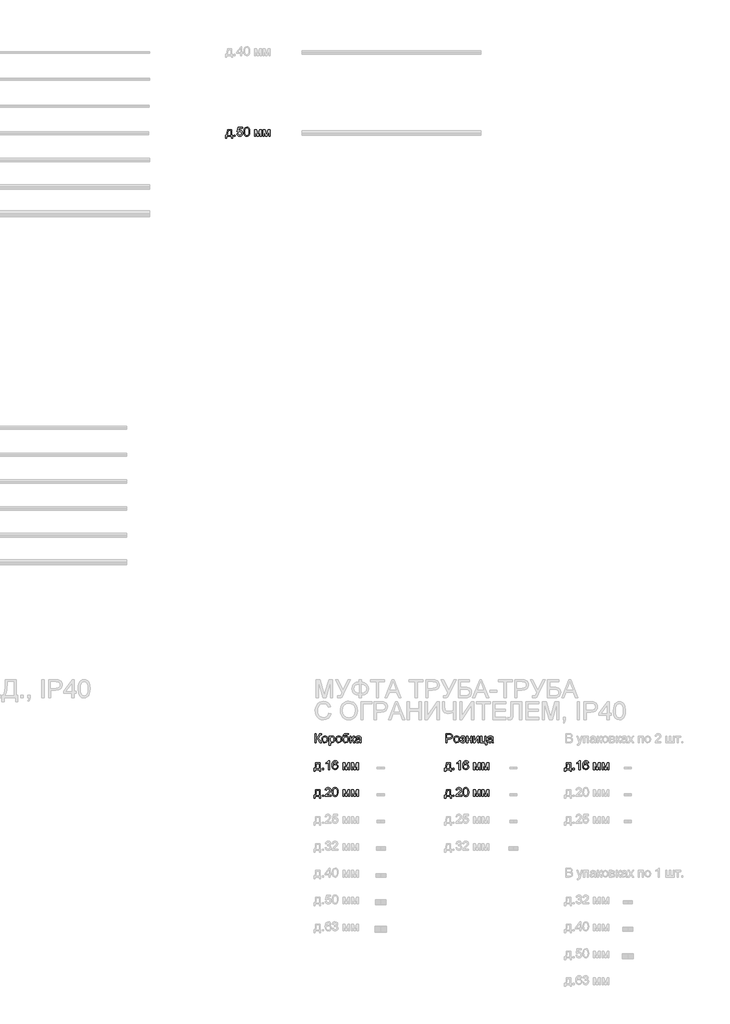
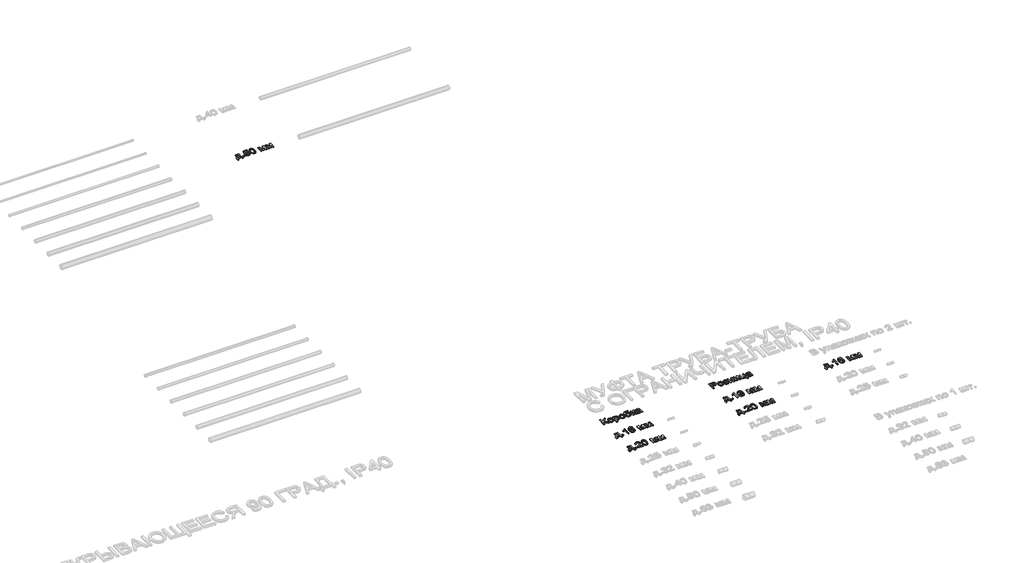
# One storey, part 85 of 98: 8 proxies.
"""IFC4 building model written with IfcOpenShell, lengths in millimetres."""

from ifc_helpers import new_model, si_unit, origin, origin_with_axes, place, context, project, spatial, polyline, outline, extrude, element, save

model = new_model("IFC4")

# Units and contexts
model_context = context("Model", 3, world=origin())
ifc_project = project(units=[si_unit("LENGTHUNIT", "METRE", prefix="MILLI")], contexts=[model_context])

# Site, building, storey
site = spatial("IfcSite", under=ifc_project)
building = spatial("IfcBuilding", under=site)
storey = spatial("IfcBuildingStorey", under=building, Name="Этаж 01", Elevation=0.0)

# Proxies
placement = place(None, origin())
element("IfcBuildingElementProxy", 1, Name="100", ObjectType="100", at=placement, inside=storey, context=model_context, shape_type="SweptSolid", body=[
    extrude(outline(polyline([(7370.1856084, -8496.7269726), (7417.2745038, -8496.7269726), (7417.2745038, -8557.9425366), (7426.6922829, -8557.9425366), (7426.6922829, -8590.9047634), (7414.1352441, -8590.9047634), (7414.1352441, -8570.4995754), (7362.3374592, -8570.4995754), (7362.3374592, -8590.9047634), (7349.7804204, -8590.9047634), (7349.7804204, -8557.9425366), (7357.6285697, -8557.9425366), (7367.3283916, -8533.9934187), (7370.1856084, -8496.7269726)]), holes=[polyline([(7381.1730173, -8509.2840114), (7378.2299614, -8537.8929679), (7371.7552383, -8557.9425366), (7404.717465, -8557.9425366), (7404.717465, -8509.2840114), (7381.1730173, -8509.2840114)])]), origin_with_axes(), (0.0, 0.0, 1.0), 10.0),
    extrude(outline(polyline([(7443.9582112, -8570.4995754), (7443.9582112, -8557.9425366), (7456.51525, -8557.9425366), (7456.51525, -8570.4995754), (7443.9582112, -8570.4995754)])), origin_with_axes(), (0.0, 0.0, 1.0), 10.0),
    extrude(outline(polyline([(7476.920438, -8543.815868), (7489.4774767, -8542.2462382), (7495.805047, -8555.1834216), (7508.9261715, -8559.5121665), (7517.9270177, -8558.006916), (7524.6715209, -8553.4911645), (7528.8837698, -8546.4860781), (7530.2878527, -8537.5128231), (7525.0271402, -8522.6013396), (7518.4205927, -8518.4994554), (7509.1223753, -8517.1321606), (7498.0981781, -8519.3149271), (7491.0471066, -8524.9803098), (7478.4900678, -8523.41068), (7489.4774767, -8471.6128951), (7538.136002, -8471.6128951), (7538.136002, -8484.1699338), (7499.6310198, -8484.1699338), (7494.2599427, -8511.8346599), (7503.230132, -8506.3900064), (7512.629517, -8504.5751218), (7524.3618869, -8506.8253334), (7534.1015627, -8513.575968), (7540.6590593, -8523.8644011), (7542.8448915, -8536.7280082), (7540.8767228, -8549.285047), (7534.9722168, -8560.0272013), (7523.6659768, -8569.0587042), (7508.8771206, -8572.0692052), (7496.5438767, -8570.1347591), (7486.7183618, -8564.3314206), (7479.9830556, -8555.3336401), (7476.920438, -8543.815868)])), origin_with_axes(), (0.0, 0.0, 1.0), 10.0),
    extrude(outline(polyline([(7553.8323004, -8521.0807607), (7557.5233831, -8492.1774986), (7568.4862666, -8475.5124442), (7586.7945272, -8470.0432652), (7601.4607561, -8473.2806268), (7611.5897737, -8482.6125667), (7617.4758856, -8497.4749993), (7619.7567539, -8521.0807607), (7616.1024595, -8549.8613955), (7605.1763642, -8566.563238), (7596.9450046, -8570.6927134), (7586.7945272, -8572.0692052), (7573.7469791, -8569.6779723), (7563.8386907, -8562.5042734), (7556.333898, -8545.5142565), (7553.8323004, -8521.0807607)]), holes=[polyline([(7566.3893392, -8521.0562352), (7567.8608672, -8540.8084327), (7572.2754511, -8552.2403657), (7578.8482761, -8557.6942163), (7586.7945272, -8559.5121665), (7594.7407783, -8557.6880849), (7601.3136033, -8552.2158402), (7605.7281872, -8540.7777759), (7607.1997152, -8521.0562352), (7605.7772381, -8501.7485618), (7601.509807, -8490.227724), (7594.9492447, -8484.507159), (7586.6473744, -8482.600304), (7578.7869624, -8484.2802984), (7572.4716548, -8489.3202818), (7567.9099181, -8501.5584895), (7566.3893392, -8521.0562352)])]), origin_with_axes(), (0.0, 0.0, 1.0), 10.0),
    extrude(outline(polyline([(7673.1241687, -8496.7269726), (7694.7311046, -8496.7269726), (7711.3838962, -8555.7842956), (7729.3365376, -8496.7269726), (7750.0360312, -8496.7269726), (7750.0360312, -8570.4995754), (7737.4789924, -8570.4995754), (7737.4789924, -8511.0988959), (7719.4282492, -8570.4995754), (7702.9471358, -8570.4995754), (7685.6812075, -8508.2539418), (7685.6812075, -8570.4995754), (7673.1241687, -8570.4995754), (7673.1241687, -8496.7269726)])), origin_with_axes(), (0.0, 0.0, 1.0), 10.0),
    extrude(outline(polyline([(7768.8715893, -8496.7269726), (7790.4785252, -8496.7269726), (7807.1313168, -8555.7842956), (7825.0839582, -8496.7269726), (7845.7834518, -8496.7269726), (7845.7834518, -8570.4995754), (7833.226413, -8570.4995754), (7833.226413, -8511.0988959), (7815.1756698, -8570.4995754), (7798.6945564, -8570.4995754), (7781.4286281, -8508.2539418), (7781.4286281, -8570.4995754), (7768.8715893, -8570.4995754), (7768.8715893, -8496.7269726)])), origin_with_axes(), (0.0, 0.0, 1.0), 10.0),
])
element("IfcBuildingElementProxy", 2, Name="100", ObjectType="100", at=placement, inside=storey, context=model_context, shape_type="SweptSolid", body=[
    extrude(outline(polyline([(8356.3281893, -15565.7395637), (8403.4170847, -15565.7395637), (8403.4170847, -15626.9551277), (8412.8348638, -15626.9551277), (8412.8348638, -15659.9173545), (8400.277825, -15659.9173545), (8400.277825, -15639.5121665), (8348.4800401, -15639.5121665), (8348.4800401, -15659.9173545), (8335.9230013, -15659.9173545), (8335.9230013, -15626.9551277), (8343.7711505, -15626.9551277), (8353.4709725, -15603.0060098), (8356.3281893, -15565.7395637)]), holes=[polyline([(8367.3155982, -15578.2966025), (8364.3725423, -15606.905559), (8357.8978192, -15626.9551277), (8390.8600459, -15626.9551277), (8390.8600459, -15578.2966025), (8367.3155982, -15578.2966025)])]), origin_with_axes(), (0.0, 0.0, 1.0), 10.0),
    extrude(outline(polyline([(8430.1007921, -15639.5121665), (8430.1007921, -15626.9551277), (8442.6578308, -15626.9551277), (8442.6578308, -15639.5121665), (8430.1007921, -15639.5121665)])), origin_with_axes(), (0.0, 0.0, 1.0), 10.0),
    extrude(outline(polyline([(8510.1519142, -15639.5121665), (8497.5948755, -15639.5121665), (8497.5948755, -15561.2268779), (8485.7000243, -15569.7004265), (8472.4807979, -15576.0402596), (8472.4807979, -15564.1699338), (8490.8871604, -15552.4222355), (8502.0585103, -15539.0558563), (8510.1519142, -15539.0558563), (8510.1519142, -15639.5121665)])), origin_with_axes(), (0.0, 0.0, 1.0), 10.0),
    extrude(outline(polyline([(8604.329705, -15565.7395637), (8591.7726662, -15567.3091935), (8587.0147258, -15556.8368194), (8574.4331615, -15551.6128951), (8563.1023961, -15554.6540529), (8554.5307456, -15566.0706575), (8550.9622902, -15588.4501455), (8562.0355383, -15578.4314925), (8575.7575367, -15575.1573428), (8587.3580823, -15577.3952916), (8597.0946924, -15584.109138), (8603.6981742, -15594.3669143), (8605.8993348, -15607.2366527), (8601.754531, -15624.5638947), (8590.3501892, -15636.8266279), (8573.8936013, -15641.0817963), (8559.647371, -15638.2613677), (8548.3012771, -15629.8000818), (8540.8792579, -15614.8640728), (8538.4052515, -15592.6194748), (8541.1521037, -15567.6096305), (8549.3926604, -15550.5092491), (8560.6437181, -15541.9192045), (8575.2179764, -15539.0558563), (8586.2360422, -15540.8278213), (8595.0590787, -15546.1437161), (8601.2394962, -15554.5866079), (8604.329705, -15565.7395637)]), holes=[polyline([(8550.9622902, -15607.040449), (8553.868558, -15617.9174933), (8561.5940799, -15625.8146935), (8572.9125826, -15628.5247575), (8581.1991245, -15627.1206746), (8587.7137015, -15622.9084257), (8591.9351474, -15616.2865498), (8593.3422961, -15607.6535857), (8591.9535415, -15599.3670437), (8587.7872779, -15593.0486705), (8581.1623363, -15589.0479538), (8572.3975478, -15587.7143815), (8557.2040214, -15593.0486705), (8552.522723, -15599.2137596), (8550.9622902, -15607.040449)])]), origin_with_axes(), (0.0, 0.0, 1.0), 10.0),
    extrude(outline(polyline([(8659.2667496, -15565.7395637), (8680.8736855, -15565.7395637), (8697.5264771, -15624.7968867), (8715.4791185, -15565.7395637), (8736.1786121, -15565.7395637), (8736.1786121, -15639.5121665), (8723.6215733, -15639.5121665), (8723.6215733, -15580.111487), (8705.5708301, -15639.5121665), (8689.0897167, -15639.5121665), (8671.8237884, -15577.2665329), (8671.8237884, -15639.5121665), (8659.2667496, -15639.5121665), (8659.2667496, -15565.7395637)])), origin_with_axes(), (0.0, 0.0, 1.0), 10.0),
    extrude(outline(polyline([(8755.0141702, -15565.7395637), (8776.6211061, -15565.7395637), (8793.2738977, -15624.7968867), (8811.2265391, -15565.7395637), (8831.9260327, -15565.7395637), (8831.9260327, -15639.5121665), (8819.3689939, -15639.5121665), (8819.3689939, -15580.111487), (8801.3182507, -15639.5121665), (8784.8371373, -15639.5121665), (8767.571209, -15577.2665329), (8767.571209, -15639.5121665), (8755.0141702, -15639.5121665), (8755.0141702, -15565.7395637)])), origin_with_axes(), (0.0, 0.0, 1.0), 10.0),
])
element("IfcBuildingElementProxy", 3, Name="100", ObjectType="100", at=placement, inside=storey, context=model_context, shape_type="SweptSolid", body=[
    extrude(outline(polyline([(8349.7389883, -15239.0558563), (8362.2960271, -15239.0558563), (8362.2960271, -15283.005492), (8376.3368566, -15279.6822913), (8386.1347804, -15262.8700841), (8393.0632246, -15248.8292546), (8400.9113739, -15241.8762849), (8412.1317747, -15239.0558563), (8420.3723314, -15239.2030091), (8420.3723314, -15251.7600479), (8417.6009537, -15251.6864715), (8414.829576, -15251.6128951), (8405.0193895, -15254.6295274), (8397.5636477, -15267.5544482), (8388.6731662, -15283.2997976), (8380.0034138, -15288.4991965), (8389.6971044, -15294.1768419), (8399.2559049, -15306.0103794), (8420.3723314, -15339.5121665), (8405.8042044, -15339.5121665), (8387.9496649, -15311.2097783), (8375.3803634, -15296.4331848), (8362.2960271, -15292.4232711), (8362.2960271, -15339.5121665), (8349.7389883, -15339.5121665), (8349.7389883, -15239.0558563)])), origin_with_axes(), (0.0, 0.0, 1.0), 10.0),
    extrude(outline(polyline([(8426.6508508, -15302.6258651), (8429.3670462, -15284.8387706), (8437.5156324, -15272.3369141), (8447.5833363, -15266.2116789), (8459.637603, -15264.1699338), (8472.8292382, -15266.656203), (8483.3659917, -15274.1150104), (8490.2729762, -15285.957745), (8492.5753043, -15301.5957955), (8488.5040769, -15323.9384953), (8476.6460139, -15336.5813732), (8459.637603, -15341.0817963), (8446.2865523, -15338.6047242), (8435.7620615, -15331.1735079), (8428.9286535, -15319.082453), (8426.6508508, -15302.6258651)]), holes=[polyline([(8439.2078896, -15302.6013396), (8440.6610235, -15313.9658276), (8445.0204251, -15322.0622972), (8451.5809873, -15326.9091424), (8459.637603, -15328.5247575), (8467.6574305, -15326.8999454), (8474.20573, -15322.025509), (8478.5651317, -15313.8217405), (8480.0182656, -15302.2089321), (8478.5559346, -15291.175538), (8474.1689418, -15283.189433), (8467.6114453, -15278.3425877), (8459.637603, -15276.7269726), (8451.5809873, -15278.3364563), (8445.0204251, -15283.1649075), (8440.6610235, -15291.242983), (8439.2078896, -15302.6013396)])]), origin_with_axes(), (0.0, 0.0, 1.0), 10.0),
    extrude(outline(polyline([(8506.701973, -15367.7655037), (8506.701973, -15265.7395637), (8519.2590117, -15265.7395637), (8519.2590117, -15278.0513478), (8527.9410268, -15267.6402873), (8539.6641997, -15264.1699338), (8555.5812274, -15269.0259762), (8565.9800251, -15282.7111864), (8569.4871668, -15302.0617793), (8565.526304, -15322.4056537), (8554.0238603, -15336.2625422), (8538.1436208, -15341.0817963), (8527.2175256, -15337.8566975), (8519.2590117, -15329.7019799), (8519.2590117, -15367.7655037), (8506.701973, -15367.7655037)]), holes=[polyline([(8519.2590117, -15303.2144763), (8520.6171094, -15314.4716653), (8524.6914025, -15322.34434), (8530.7032075, -15326.9796532), (8537.8738407, -15328.5247575), (8545.1609699, -15326.9244709), (8551.326059, -15322.1236108), (8555.5291108, -15313.9627619), (8556.930128, -15302.2825085), (8555.5628333, -15291.0866332), (8551.460949, -15283.1035939), (8545.4583411, -15278.3211279), (8538.3888755, -15276.7269726), (8531.2918186, -15278.4222955), (8525.0592845, -15283.5082641), (8520.7090799, -15291.8254628), (8519.2590117, -15303.2144763)])]), origin_with_axes(), (0.0, 0.0, 1.0), 10.0),
    extrude(outline(polyline([(8580.4745757, -15302.6258651), (8583.1907711, -15284.8387706), (8591.3393573, -15272.3369141), (8601.4070612, -15266.2116789), (8613.461328, -15264.1699338), (8626.6529632, -15266.656203), (8637.1897166, -15274.1150104), (8644.0967011, -15285.957745), (8646.3990293, -15301.5957955), (8642.3278018, -15323.9384953), (8630.4697389, -15336.5813732), (8613.461328, -15341.0817963), (8600.1102772, -15338.6047242), (8589.5857865, -15331.1735079), (8582.7523784, -15319.082453), (8580.4745757, -15302.6258651)]), holes=[polyline([(8593.0316145, -15302.6013396), (8594.4847484, -15313.9658276), (8598.84415, -15322.0622972), (8605.4047123, -15326.9091424), (8613.461328, -15328.5247575), (8621.4811554, -15326.8999454), (8628.029455, -15322.025509), (8632.3888566, -15313.8217405), (8633.8419905, -15302.2089321), (8632.3796596, -15291.175538), (8627.9926668, -15283.189433), (8621.4351702, -15278.3425877), (8613.461328, -15276.7269726), (8605.4047123, -15278.3364563), (8598.84415, -15283.1649075), (8594.4847484, -15291.242983), (8593.0316145, -15302.6013396)])]), origin_with_axes(), (0.0, 0.0, 1.0), 10.0),
    extrude(outline(polyline([(8712.3234828, -15237.4862265), (8723.3108917, -15237.4862265), (8720.0735302, -15247.2841503), (8713.6723834, -15250.8280802), (8698.294916, -15251.6128951), (8677.5831597, -15254.5069001), (8669.6369086, -15263.7775264), (8666.9513701, -15280.1850634), (8677.8284144, -15268.1675849), (8691.8447184, -15264.1699338), (8704.9106606, -15266.7113853), (8715.5117934, -15274.3357396), (8722.5383395, -15286.2949702), (8724.8805216, -15301.8410502), (8720.2329457, -15323.447986), (8709.2087486, -15336.4832714), (8691.8447184, -15341.0817963), (8680.5108873, -15339.6010713), (8672.0158789, -15335.1588962), (8661.16336, -15320.002158), (8657.3864382, -15287.8370089), (8659.7684741, -15263.7438039), (8666.9145819, -15249.0499838), (8679.0025711, -15241.5543882), (8696.2102514, -15239.0558563), (8710.1897672, -15238.7738134), (8712.3234828, -15237.4862265)]), holes=[polyline([(8712.3234828, -15301.4486427), (8710.9623194, -15291.5679454), (8706.8788293, -15283.6554169), (8700.318267, -15278.4590837), (8691.5258873, -15276.7269726), (8682.3594943, -15278.5571855), (8675.5598087, -15284.0478243), (8671.3475599, -15292.598015), (8669.9434769, -15303.6068837), (8671.4947127, -15314.2785273), (8676.1484199, -15322.1113481), (8683.0768642, -15326.9214052), (8691.4523109, -15328.5247575), (8699.8706773, -15326.6700191), (8706.5354727, -15321.105804), (8710.8764803, -15312.4820369), (8712.3234828, -15301.4486427)])]), origin_with_axes(), (0.0, 0.0, 1.0), 10.0),
    extrude(outline(polyline([(8740.57682, -15265.7395637), (8753.1338588, -15265.7395637), (8753.1338588, -15297.1321606), (8761.5460937, -15294.8758177), (8768.4377498, -15281.7301677), (8774.1644462, -15270.3871396), (8779.2166922, -15266.6960569), (8788.4014794, -15265.7395637), (8790.8049751, -15265.7395637), (8790.8049751, -15278.3701789), (8787.4204607, -15278.2966025), (8781.2890942, -15279.6209776), (8776.9726121, -15287.8860598), (8771.9081033, -15296.8255923), (8764.8079808, -15301.203388), (8772.7297064, -15306.0900872), (8780.5042792, -15316.3846517), (8793.9442348, -15339.5121665), (8779.6704134, -15339.5121665), (8766.5002379, -15316.875161), (8759.878362, -15307.2979664), (8753.1338588, -15304.9803098), (8753.1338588, -15339.5121665), (8740.57682, -15339.5121665), (8740.57682, -15265.7395637)])), origin_with_axes(), (0.0, 0.0, 1.0), 10.0),
    extrude(outline(polyline([(8848.8812794, -15330.0943874), (8836.7043854, -15338.6047242), (8823.2521671, -15341.0817963), (8812.7583332, -15339.5918742), (8805.0174828, -15335.122108), (8800.244214, -15328.3346852), (8798.6531243, -15319.8917934), (8801.05662, -15309.9589795), (8807.3719276, -15302.7484924), (8816.1643073, -15298.6282141), (8827.0290889, -15296.7397532), (8848.807703, -15292.4232711), (8848.8812794, -15289.6273679), (8845.4231886, -15280.3567416), (8831.5417747, -15276.7269726), (8818.8375831, -15279.1427311), (8812.7797929, -15287.7143815), (8800.2227542, -15286.1447517), (8805.655145, -15273.8820185), (8816.593503, -15266.6960569), (8833.1604555, -15264.1699338), (8848.3785073, -15266.4017513), (8856.9746833, -15272.0058203), (8860.8251815, -15280.5284199), (8861.4383182, -15291.5158288), (8861.4383182, -15307.1385509), (8862.0759803, -15328.9539532), (8864.5775779, -15339.5121665), (8852.0205391, -15339.5121665), (8848.8812794, -15330.0943874)]), holes=[polyline([(8848.8812794, -15304.9803098), (8828.6232442, -15308.8308081), (8817.8197763, -15310.8664218), (8812.9269457, -15314.1773597), (8811.2101631, -15319.0088766), (8814.9502967, -15325.8024308), (8825.9254429, -15328.5247575), (8838.6296345, -15325.5203879), (8846.8211402, -15318.2485871), (8848.807703, -15308.5365025), (8848.8812794, -15304.9803098)])]), origin_with_axes(), (0.0, 0.0, 1.0), 10.0),
])
element("IfcBuildingElementProxy", 4, Name="100", ObjectType="100", at=placement, inside=storey, context=model_context, shape_type="SweptSolid", body=[
    extrude(outline(polyline([(8356.3281893, -15865.7395637), (8403.4170847, -15865.7395637), (8403.4170847, -15926.9551277), (8412.8348638, -15926.9551277), (8412.8348638, -15959.9173545), (8400.277825, -15959.9173545), (8400.277825, -15939.5121665), (8348.4800401, -15939.5121665), (8348.4800401, -15959.9173545), (8335.9230013, -15959.9173545), (8335.9230013, -15926.9551277), (8343.7711505, -15926.9551277), (8353.4709725, -15903.0060098), (8356.3281893, -15865.7395637)]), holes=[polyline([(8367.3155982, -15878.2966025), (8364.3725423, -15906.905559), (8357.8978192, -15926.9551277), (8390.8600459, -15926.9551277), (8390.8600459, -15878.2966025), (8367.3155982, -15878.2966025)])]), origin_with_axes(), (0.0, 0.0, 1.0), 10.0),
    extrude(outline(polyline([(8430.1007921, -15939.5121665), (8430.1007921, -15926.9551277), (8442.6578308, -15926.9551277), (8442.6578308, -15939.5121665), (8430.1007921, -15939.5121665)])), origin_with_axes(), (0.0, 0.0, 1.0), 10.0),
    extrude(outline(polyline([(8527.4178425, -15926.9551277), (8527.4178425, -15939.5121665), (8461.493389, -15939.5121665), (8462.8422896, -15930.8546768), (8470.4697097, -15917.5250859), (8486.1905336, -15902.9692216), (8507.8710459, -15882.0489988), (8513.2911739, -15867.8242283), (8508.1776142, -15856.3095219), (8494.8234978, -15851.6128951), (8480.9052956, -15856.1991573), (8475.6200576, -15868.8788234), (8463.0630188, -15867.3091935), (8466.1072424, -15855.1629563), (8472.6892644, -15846.2908689), (8482.4657284, -15840.8646095), (8495.0932779, -15839.0558563), (8507.8127979, -15841.0669445), (8517.5708678, -15847.1002093), (8523.7788765, -15856.1133182), (8525.8482127, -15867.0639389), (8523.6163953, -15878.9710528), (8516.1974417, -15891.2828369), (8498.2080121, -15908.4874515), (8483.7625124, -15920.5662437), (8478.0971297, -15926.9551277), (8527.4178425, -15926.9551277)])), origin_with_axes(), (0.0, 0.0, 1.0), 10.0),
    extrude(outline(polyline([(8539.9748813, -15890.0933518), (8543.665964, -15861.1900897), (8554.6288474, -15844.5250353), (8572.9371081, -15839.0558563), (8587.6033369, -15842.2932179), (8597.7323545, -15851.6251578), (8603.6184665, -15866.4875904), (8605.8993348, -15890.0933518), (8602.2450404, -15918.8739865), (8591.3189451, -15935.5758291), (8583.0875855, -15939.7053045), (8572.9371081, -15941.0817963), (8559.88956, -15938.6905633), (8549.9812716, -15931.5168644), (8542.4764789, -15914.5268476), (8539.9748813, -15890.0933518)]), holes=[polyline([(8552.5319201, -15890.0688263), (8554.0034481, -15909.8210238), (8558.418032, -15921.2529568), (8564.990857, -15926.7068073), (8572.9371081, -15928.5247575), (8580.8833592, -15926.700676), (8587.4561841, -15921.2284313), (8591.8707681, -15909.7903669), (8593.3422961, -15890.0688263), (8591.919819, -15870.7611529), (8587.6523879, -15859.2403151), (8581.0918256, -15853.5197501), (8572.7899553, -15851.6128951), (8564.9295433, -15853.2928895), (8558.6142357, -15858.3328729), (8554.052499, -15870.5710806), (8552.5319201, -15890.0688263)])]), origin_with_axes(), (0.0, 0.0, 1.0), 10.0),
    extrude(outline(polyline([(8659.2667496, -15865.7395637), (8680.8736855, -15865.7395637), (8697.5264771, -15924.7968867), (8715.4791185, -15865.7395637), (8736.1786121, -15865.7395637), (8736.1786121, -15939.5121665), (8723.6215733, -15939.5121665), (8723.6215733, -15880.111487), (8705.5708301, -15939.5121665), (8689.0897167, -15939.5121665), (8671.8237884, -15877.2665329), (8671.8237884, -15939.5121665), (8659.2667496, -15939.5121665), (8659.2667496, -15865.7395637)])), origin_with_axes(), (0.0, 0.0, 1.0), 10.0),
    extrude(outline(polyline([(8755.0141702, -15865.7395637), (8776.6211061, -15865.7395637), (8793.2738977, -15924.7968867), (8811.2265391, -15865.7395637), (8831.9260327, -15865.7395637), (8831.9260327, -15939.5121665), (8819.3689939, -15939.5121665), (8819.3689939, -15880.111487), (8801.3182507, -15939.5121665), (8784.8371373, -15939.5121665), (8767.571209, -15877.2665329), (8767.571209, -15939.5121665), (8755.0141702, -15939.5121665), (8755.0141702, -15865.7395637)])), origin_with_axes(), (0.0, 0.0, 1.0), 10.0),
])
element("IfcBuildingElementProxy", 5, Name="100", ObjectType="100", at=placement, inside=storey, context=model_context, shape_type="SweptSolid", body=[
    extrude(outline(polyline([(9809.7389883, -15339.5121665), (9809.7389883, -15239.0558563), (9846.9686463, -15239.0558563), (9861.9782317, -15240.0123495), (9874.1796512, -15244.7089763), (9882.0891141, -15254.421061), (9885.081221, -15268.1185339), (9883.0609357, -15279.9582028), (9877.0000798, -15289.8235716), (9865.6662487, -15296.4822358), (9847.8270376, -15298.7017905), (9822.2960271, -15298.7017905), (9822.2960271, -15339.5121665), (9809.7389883, -15339.5121665)]), holes=[polyline([(9822.2960271, -15286.1447517), (9848.5628016, -15286.1447517), (9867.0550032, -15281.533964), (9871.1568874, -15275.9850773), (9872.5241822, -15268.5599923), (9869.2990834, -15258.1611946), (9860.8255347, -15252.4712864), (9848.268496, -15251.6128951), (9822.2960271, -15251.6128951), (9822.2960271, -15286.1447517)])]), origin_with_axes(), (0.0, 0.0, 1.0), 10.0),
    extrude(outline(polyline([(9897.6382597, -15302.6258651), (9900.3544551, -15284.8387706), (9908.5030413, -15272.3369141), (9918.5707453, -15266.2116789), (9930.625012, -15264.1699338), (9943.8166472, -15266.656203), (9954.3534006, -15274.1150104), (9961.2603851, -15285.957745), (9963.5627133, -15301.5957955), (9959.4914858, -15323.9384953), (9947.6334229, -15336.5813732), (9930.625012, -15341.0817963), (9917.2739612, -15338.6047242), (9906.7494705, -15331.1735079), (9899.9160624, -15319.082453), (9897.6382597, -15302.6258651)]), holes=[polyline([(9910.1952985, -15302.6013396), (9911.6484324, -15313.9658276), (9916.007834, -15322.0622972), (9922.5683963, -15326.9091424), (9930.625012, -15328.5247575), (9938.6448395, -15326.8999454), (9945.193139, -15322.025509), (9949.5525406, -15313.8217405), (9951.0056745, -15302.2089321), (9949.5433436, -15291.175538), (9945.1563508, -15283.189433), (9938.5988542, -15278.3425877), (9930.625012, -15276.7269726), (9922.5683963, -15278.3364563), (9916.007834, -15283.1649075), (9911.6484324, -15291.242983), (9910.1952985, -15302.6013396)])]), origin_with_axes(), (0.0, 0.0, 1.0), 10.0),
    extrude(outline(polyline([(9994.9553102, -15306.5499397), (9994.9553102, -15293.9929009), (10004.8635986, -15293.5023916), (10009.8667937, -15290.8904294), (10012.2212385, -15285.4335132), (10009.0697161, -15279.0936801), (10000.939524, -15276.7269726), (9992.5395517, -15279.0814174), (9987.107161, -15286.1447517), (9972.9804923, -15284.5751218), (9982.4227969, -15269.2712308), (9999.6641997, -15264.1699338), (10010.1610993, -15265.7242353), (10018.1073504, -15270.3871396), (10023.1105455, -15277.2082849), (10024.7782773, -15285.2373094), (10022.4054384, -15293.0364077), (10015.2869218, -15299.0696725), (10023.5887921, -15306.8932962), (10026.3479071, -15318.1504853), (10024.5974019, -15327.3935204), (10019.3458865, -15334.7174378), (10010.9489799, -15339.4907067), (9999.7623016, -15341.0817963), (9988.8208779, -15339.6102683), (9980.4484968, -15335.1956844), (9974.6451584, -15327.8380445), (9971.4108625, -15317.5373486), (9985.5375311, -15315.9677188), (9991.2029138, -15325.238345), (10000.9640494, -15328.5247575), (10010.1365738, -15325.3732351), (10013.7908683, -15317.3166194), (10011.5222627, -15310.719269), (10006.6907458, -15307.1876018), (9997.4078568, -15306.4763633), (9994.9553102, -15306.5499397)])), origin_with_axes(), (0.0, 0.0, 1.0), 10.0),
    extrude(outline(polyline([(10042.0442056, -15265.7395637), (10054.6012443, -15265.7395637), (10054.6012443, -15293.9929009), (10087.5634711, -15293.9929009), (10087.5634711, -15265.7395637), (10100.1205099, -15265.7395637), (10100.1205099, -15339.5121665), (10087.5634711, -15339.5121665), (10087.5634711, -15306.5499397), (10054.6012443, -15306.5499397), (10054.6012443, -15339.5121665), (10042.0442056, -15339.5121665), (10042.0442056, -15265.7395637)])), origin_with_axes(), (0.0, 0.0, 1.0), 10.0),
    extrude(outline(polyline([(10118.956068, -15265.7395637), (10131.5131068, -15265.7395637), (10131.5131068, -15322.0009835), (10162.3661435, -15265.7395637), (10178.6020022, -15265.7395637), (10178.6020022, -15339.5121665), (10166.0449634, -15339.5121665), (10166.0449634, -15283.5941032), (10135.3881305, -15339.5121665), (10118.956068, -15339.5121665), (10118.956068, -15265.7395637)])), origin_with_axes(), (0.0, 0.0, 1.0), 10.0),
    extrude(outline(polyline([(10197.4375603, -15265.7395637), (10209.9945991, -15265.7395637), (10209.9945991, -15326.9551277), (10246.0960856, -15326.9551277), (10246.0960856, -15265.7395637), (10258.6531243, -15265.7395637), (10258.6531243, -15326.9551277), (10266.5012736, -15326.9551277), (10266.5012736, -15359.9173545), (10253.9442348, -15359.9173545), (10253.9442348, -15339.5121665), (10197.4375603, -15339.5121665), (10197.4375603, -15265.7395637)])), origin_with_axes(), (0.0, 0.0, 1.0), 10.0),
    extrude(outline(polyline([(10324.5775779, -15330.0943874), (10312.4006838, -15338.6047242), (10298.9484655, -15341.0817963), (10288.4546316, -15339.5918742), (10280.7137813, -15335.122108), (10275.9405124, -15328.3346852), (10274.3494228, -15319.8917934), (10276.7529185, -15309.9589795), (10283.0682261, -15302.7484924), (10291.8606058, -15298.6282141), (10302.7253873, -15296.7397532), (10324.5040015, -15292.4232711), (10324.5775779, -15289.6273679), (10321.1194871, -15280.3567416), (10307.2380732, -15276.7269726), (10294.5338816, -15279.1427311), (10288.4760914, -15287.7143815), (10275.9190526, -15286.1447517), (10281.3514434, -15273.8820185), (10292.2898014, -15266.6960569), (10308.8567539, -15264.1699338), (10324.0748058, -15266.4017513), (10332.6709818, -15272.0058203), (10336.52148, -15280.5284199), (10337.1346166, -15291.5158288), (10337.1346166, -15307.1385509), (10337.7722788, -15328.9539532), (10340.2738763, -15339.5121665), (10327.7168376, -15339.5121665), (10324.5775779, -15330.0943874)]), holes=[polyline([(10324.5775779, -15304.9803098), (10304.3195427, -15308.8308081), (10293.5160747, -15310.8664218), (10288.6232442, -15314.1773597), (10286.9064616, -15319.0088766), (10290.6465952, -15325.8024308), (10301.6217414, -15328.5247575), (10314.3259329, -15325.5203879), (10322.5174387, -15318.2485871), (10324.5040015, -15308.5365025), (10324.5775779, -15304.9803098)])]), origin_with_axes(), (0.0, 0.0, 1.0), 10.0),
])
element("IfcBuildingElementProxy", 6, Name="100", ObjectType="100", at=placement, inside=storey, context=model_context, shape_type="SweptSolid", body=[
    extrude(outline(polyline([(9816.3281893, -15565.7395637), (9863.4170847, -15565.7395637), (9863.4170847, -15626.9551277), (9872.8348638, -15626.9551277), (9872.8348638, -15659.9173545), (9860.277825, -15659.9173545), (9860.277825, -15639.5121665), (9808.4800401, -15639.5121665), (9808.4800401, -15659.9173545), (9795.9230013, -15659.9173545), (9795.9230013, -15626.9551277), (9803.7711505, -15626.9551277), (9813.4709725, -15603.0060098), (9816.3281893, -15565.7395637)]), holes=[polyline([(9827.3155982, -15578.2966025), (9824.3725423, -15606.905559), (9817.8978192, -15626.9551277), (9850.8600459, -15626.9551277), (9850.8600459, -15578.2966025), (9827.3155982, -15578.2966025)])]), origin_with_axes(), (0.0, 0.0, 1.0), 10.0),
    extrude(outline(polyline([(9890.1007921, -15639.5121665), (9890.1007921, -15626.9551277), (9902.6578308, -15626.9551277), (9902.6578308, -15639.5121665), (9890.1007921, -15639.5121665)])), origin_with_axes(), (0.0, 0.0, 1.0), 10.0),
    extrude(outline(polyline([(9970.1519142, -15639.5121665), (9957.5948755, -15639.5121665), (9957.5948755, -15561.2268779), (9945.7000243, -15569.7004265), (9932.4807979, -15576.0402596), (9932.4807979, -15564.1699338), (9950.8871604, -15552.4222355), (9962.0585103, -15539.0558563), (9970.1519142, -15539.0558563), (9970.1519142, -15639.5121665)])), origin_with_axes(), (0.0, 0.0, 1.0), 10.0),
    extrude(outline(polyline([(10064.329705, -15565.7395637), (10051.7726662, -15567.3091935), (10047.0147258, -15556.8368194), (10034.4331615, -15551.6128951), (10023.1023961, -15554.6540529), (10014.5307456, -15566.0706575), (10010.9622902, -15588.4501455), (10022.0355383, -15578.4314925), (10035.7575367, -15575.1573428), (10047.3580823, -15577.3952916), (10057.0946924, -15584.109138), (10063.6981742, -15594.3669143), (10065.8993348, -15607.2366527), (10061.754531, -15624.5638947), (10050.3501892, -15636.8266279), (10033.8936013, -15641.0817963), (10019.647371, -15638.2613677), (10008.3012771, -15629.8000818), (10000.8792579, -15614.8640728), (9998.4052515, -15592.6194748), (10001.1521037, -15567.6096305), (10009.3926604, -15550.5092491), (10020.6437181, -15541.9192045), (10035.2179764, -15539.0558563), (10046.2360422, -15540.8278213), (10055.0590787, -15546.1437161), (10061.2394962, -15554.5866079), (10064.329705, -15565.7395637)]), holes=[polyline([(10010.9622902, -15607.040449), (10013.868558, -15617.9174933), (10021.5940799, -15625.8146935), (10032.9125826, -15628.5247575), (10041.1991245, -15627.1206746), (10047.7137015, -15622.9084257), (10051.9351474, -15616.2865498), (10053.3422961, -15607.6535857), (10051.9535415, -15599.3670437), (10047.7872779, -15593.0486705), (10041.1623363, -15589.0479538), (10032.3975478, -15587.7143815), (10017.2040214, -15593.0486705), (10012.522723, -15599.2137596), (10010.9622902, -15607.040449)])]), origin_with_axes(), (0.0, 0.0, 1.0), 10.0),
    extrude(outline(polyline([(10119.2667496, -15565.7395637), (10140.8736855, -15565.7395637), (10157.5264771, -15624.7968867), (10175.4791185, -15565.7395637), (10196.1786121, -15565.7395637), (10196.1786121, -15639.5121665), (10183.6215733, -15639.5121665), (10183.6215733, -15580.111487), (10165.5708301, -15639.5121665), (10149.0897167, -15639.5121665), (10131.8237884, -15577.2665329), (10131.8237884, -15639.5121665), (10119.2667496, -15639.5121665), (10119.2667496, -15565.7395637)])), origin_with_axes(), (0.0, 0.0, 1.0), 10.0),
    extrude(outline(polyline([(10215.0141702, -15565.7395637), (10236.6211061, -15565.7395637), (10253.2738977, -15624.7968867), (10271.2265391, -15565.7395637), (10291.9260327, -15565.7395637), (10291.9260327, -15639.5121665), (10279.3689939, -15639.5121665), (10279.3689939, -15580.111487), (10261.3182507, -15639.5121665), (10244.8371373, -15639.5121665), (10227.571209, -15577.2665329), (10227.571209, -15639.5121665), (10215.0141702, -15639.5121665), (10215.0141702, -15565.7395637)])), origin_with_axes(), (0.0, 0.0, 1.0), 10.0),
])
element("IfcBuildingElementProxy", 7, Name="100", ObjectType="100", at=placement, inside=storey, context=model_context, shape_type="SweptSolid", body=[
    extrude(outline(polyline([(9816.3281893, -15865.7395637), (9863.4170847, -15865.7395637), (9863.4170847, -15926.9551277), (9872.8348638, -15926.9551277), (9872.8348638, -15959.9173545), (9860.277825, -15959.9173545), (9860.277825, -15939.5121665), (9808.4800401, -15939.5121665), (9808.4800401, -15959.9173545), (9795.9230013, -15959.9173545), (9795.9230013, -15926.9551277), (9803.7711505, -15926.9551277), (9813.4709725, -15903.0060098), (9816.3281893, -15865.7395637)]), holes=[polyline([(9827.3155982, -15878.2966025), (9824.3725423, -15906.905559), (9817.8978192, -15926.9551277), (9850.8600459, -15926.9551277), (9850.8600459, -15878.2966025), (9827.3155982, -15878.2966025)])]), origin_with_axes(), (0.0, 0.0, 1.0), 10.0),
    extrude(outline(polyline([(9890.1007921, -15939.5121665), (9890.1007921, -15926.9551277), (9902.6578308, -15926.9551277), (9902.6578308, -15939.5121665), (9890.1007921, -15939.5121665)])), origin_with_axes(), (0.0, 0.0, 1.0), 10.0),
    extrude(outline(polyline([(9987.4178425, -15926.9551277), (9987.4178425, -15939.5121665), (9921.493389, -15939.5121665), (9922.8422896, -15930.8546768), (9930.4697097, -15917.5250859), (9946.1905336, -15902.9692216), (9967.8710459, -15882.0489988), (9973.2911739, -15867.8242283), (9968.1776142, -15856.3095219), (9954.8234978, -15851.6128951), (9940.9052956, -15856.1991573), (9935.6200576, -15868.8788234), (9923.0630188, -15867.3091935), (9926.1072424, -15855.1629563), (9932.6892644, -15846.2908689), (9942.4657284, -15840.8646095), (9955.0932779, -15839.0558563), (9967.8127979, -15841.0669445), (9977.5708678, -15847.1002093), (9983.7788765, -15856.1133182), (9985.8482127, -15867.0639389), (9983.6163953, -15878.9710528), (9976.1974417, -15891.2828369), (9958.2080121, -15908.4874515), (9943.7625124, -15920.5662437), (9938.0971297, -15926.9551277), (9987.4178425, -15926.9551277)])), origin_with_axes(), (0.0, 0.0, 1.0), 10.0),
    extrude(outline(polyline([(9999.9748813, -15890.0933518), (10003.665964, -15861.1900897), (10014.6288474, -15844.5250353), (10032.9371081, -15839.0558563), (10047.6033369, -15842.2932179), (10057.7323545, -15851.6251578), (10063.6184665, -15866.4875904), (10065.8993348, -15890.0933518), (10062.2450404, -15918.8739865), (10051.3189451, -15935.5758291), (10043.0875855, -15939.7053045), (10032.9371081, -15941.0817963), (10019.88956, -15938.6905633), (10009.9812716, -15931.5168644), (10002.4764789, -15914.5268476), (9999.9748813, -15890.0933518)]), holes=[polyline([(10012.5319201, -15890.0688263), (10014.0034481, -15909.8210238), (10018.418032, -15921.2529568), (10024.990857, -15926.7068073), (10032.9371081, -15928.5247575), (10040.8833592, -15926.700676), (10047.4561841, -15921.2284313), (10051.8707681, -15909.7903669), (10053.3422961, -15890.0688263), (10051.919819, -15870.7611529), (10047.6523879, -15859.2403151), (10041.0918256, -15853.5197501), (10032.7899553, -15851.6128951), (10024.9295433, -15853.2928895), (10018.6142357, -15858.3328729), (10014.052499, -15870.5710806), (10012.5319201, -15890.0688263)])]), origin_with_axes(), (0.0, 0.0, 1.0), 10.0),
    extrude(outline(polyline([(10119.2667496, -15865.7395637), (10140.8736855, -15865.7395637), (10157.5264771, -15924.7968867), (10175.4791185, -15865.7395637), (10196.1786121, -15865.7395637), (10196.1786121, -15939.5121665), (10183.6215733, -15939.5121665), (10183.6215733, -15880.111487), (10165.5708301, -15939.5121665), (10149.0897167, -15939.5121665), (10131.8237884, -15877.2665329), (10131.8237884, -15939.5121665), (10119.2667496, -15939.5121665), (10119.2667496, -15865.7395637)])), origin_with_axes(), (0.0, 0.0, 1.0), 10.0),
    extrude(outline(polyline([(10215.0141702, -15865.7395637), (10236.6211061, -15865.7395637), (10253.2738977, -15924.7968867), (10271.2265391, -15865.7395637), (10291.9260327, -15865.7395637), (10291.9260327, -15939.5121665), (10279.3689939, -15939.5121665), (10279.3689939, -15880.111487), (10261.3182507, -15939.5121665), (10244.8371373, -15939.5121665), (10227.571209, -15877.2665329), (10227.571209, -15939.5121665), (10215.0141702, -15939.5121665), (10215.0141702, -15865.7395637)])), origin_with_axes(), (0.0, 0.0, 1.0), 10.0),
])
element("IfcBuildingElementProxy", 8, Name="100", ObjectType="100", at=placement, inside=storey, context=model_context, shape_type="SweptSolid", body=[
    extrude(outline(polyline([(11156.3281893, -15565.7395637), (11203.4170847, -15565.7395637), (11203.4170847, -15626.9551277), (11212.8348638, -15626.9551277), (11212.8348638, -15659.9173545), (11200.277825, -15659.9173545), (11200.277825, -15639.5121665), (11148.4800401, -15639.5121665), (11148.4800401, -15659.9173545), (11135.9230013, -15659.9173545), (11135.9230013, -15626.9551277), (11143.7711505, -15626.9551277), (11153.4709725, -15603.0060098), (11156.3281893, -15565.7395637)]), holes=[polyline([(11167.3155982, -15578.2966025), (11164.3725423, -15606.905559), (11157.8978192, -15626.9551277), (11190.8600459, -15626.9551277), (11190.8600459, -15578.2966025), (11167.3155982, -15578.2966025)])]), origin_with_axes(), (0.0, 0.0, 1.0), 10.0),
    extrude(outline(polyline([(11230.1007921, -15639.5121665), (11230.1007921, -15626.9551277), (11242.6578308, -15626.9551277), (11242.6578308, -15639.5121665), (11230.1007921, -15639.5121665)])), origin_with_axes(), (0.0, 0.0, 1.0), 10.0),
    extrude(outline(polyline([(11310.1519142, -15639.5121665), (11297.5948755, -15639.5121665), (11297.5948755, -15561.2268779), (11285.7000243, -15569.7004265), (11272.4807979, -15576.0402596), (11272.4807979, -15564.1699338), (11290.8871604, -15552.4222355), (11302.0585103, -15539.0558563), (11310.1519142, -15539.0558563), (11310.1519142, -15639.5121665)])), origin_with_axes(), (0.0, 0.0, 1.0), 10.0),
    extrude(outline(polyline([(11404.329705, -15565.7395637), (11391.7726662, -15567.3091935), (11387.0147258, -15556.8368194), (11374.4331615, -15551.6128951), (11363.1023961, -15554.6540529), (11354.5307456, -15566.0706575), (11350.9622902, -15588.4501455), (11362.0355383, -15578.4314925), (11375.7575367, -15575.1573428), (11387.3580823, -15577.3952916), (11397.0946924, -15584.109138), (11403.6981742, -15594.3669143), (11405.8993348, -15607.2366527), (11401.754531, -15624.5638947), (11390.3501892, -15636.8266279), (11373.8936013, -15641.0817963), (11359.647371, -15638.2613677), (11348.3012771, -15629.8000818), (11340.8792579, -15614.8640728), (11338.4052515, -15592.6194748), (11341.1521037, -15567.6096305), (11349.3926604, -15550.5092491), (11360.6437181, -15541.9192045), (11375.2179764, -15539.0558563), (11386.2360422, -15540.8278213), (11395.0590787, -15546.1437161), (11401.2394962, -15554.5866079), (11404.329705, -15565.7395637)]), holes=[polyline([(11350.9622902, -15607.040449), (11353.868558, -15617.9174933), (11361.5940799, -15625.8146935), (11372.9125826, -15628.5247575), (11381.1991245, -15627.1206746), (11387.7137015, -15622.9084257), (11391.9351474, -15616.2865498), (11393.3422961, -15607.6535857), (11391.9535415, -15599.3670437), (11387.7872779, -15593.0486705), (11381.1623363, -15589.0479538), (11372.3975478, -15587.7143815), (11357.2040214, -15593.0486705), (11352.522723, -15599.2137596), (11350.9622902, -15607.040449)])]), origin_with_axes(), (0.0, 0.0, 1.0), 10.0),
    extrude(outline(polyline([(11459.2667496, -15565.7395637), (11480.8736855, -15565.7395637), (11497.5264771, -15624.7968867), (11515.4791185, -15565.7395637), (11536.1786121, -15565.7395637), (11536.1786121, -15639.5121665), (11523.6215733, -15639.5121665), (11523.6215733, -15580.111487), (11505.5708301, -15639.5121665), (11489.0897167, -15639.5121665), (11471.8237884, -15577.2665329), (11471.8237884, -15639.5121665), (11459.2667496, -15639.5121665), (11459.2667496, -15565.7395637)])), origin_with_axes(), (0.0, 0.0, 1.0), 10.0),
    extrude(outline(polyline([(11555.0141702, -15565.7395637), (11576.6211061, -15565.7395637), (11593.2738977, -15624.7968867), (11611.2265391, -15565.7395637), (11631.9260327, -15565.7395637), (11631.9260327, -15639.5121665), (11619.3689939, -15639.5121665), (11619.3689939, -15580.111487), (11601.3182507, -15639.5121665), (11584.8371373, -15639.5121665), (11567.571209, -15577.2665329), (11567.571209, -15639.5121665), (11555.0141702, -15639.5121665), (11555.0141702, -15565.7395637)])), origin_with_axes(), (0.0, 0.0, 1.0), 10.0),
])

save(model, "model.ifc")
